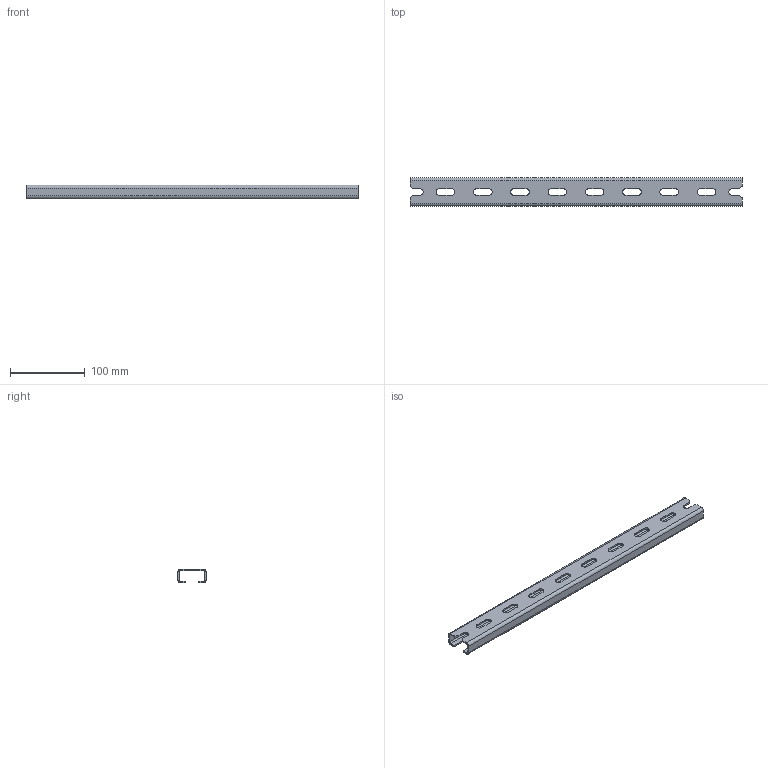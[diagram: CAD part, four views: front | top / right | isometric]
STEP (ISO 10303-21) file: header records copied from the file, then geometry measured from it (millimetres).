
FILE_DESCRIPTION (( 'STEP AP214' ), '1' );
FILE_NAME ('MTD 50 C Òðàâåðñà ìîíòàæíàÿ.STEP', '2023-12-11T04:28:40', ( '' ), ( '' ), 'SwSTEP 2.0', 'SolidWorks 2019', '' );
FILE_SCHEMA (( 'AUTOMOTIVE_DESIGN' ));
Length unit declared in the file: millimetre
Products named in the file (1): MTD 50 C Òðàâåðñà ìîíòàæíàÿ
Bounding box: 445 x 38 x 18.5 mm (x, y, z)
Volume: 69426.5 mm3; surface area: 72609.1 mm2
Topology: 1 solids, 1 shells, 103 faces, 271 edges, 170 vertices
Faces by surface type: plane 56, cylinder 47
Entity records: 3229 total; most frequent: DIRECTION 573, CARTESIAN_POINT 545, ORIENTED_EDGE 542, EDGE_CURVE 271, AXIS2_PLACEMENT_3D 198, VECTOR 177, LINE 177, VERTEX_POINT 170
